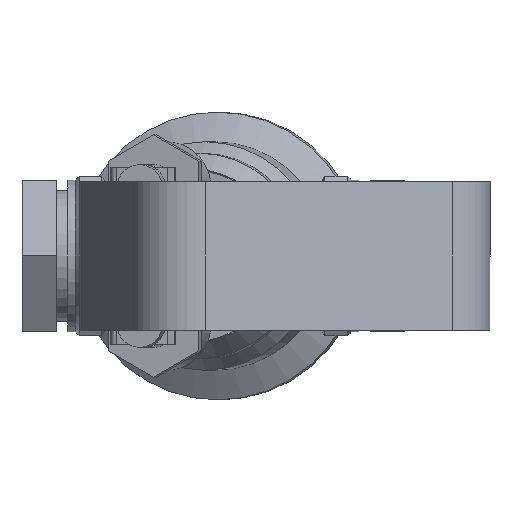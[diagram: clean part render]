
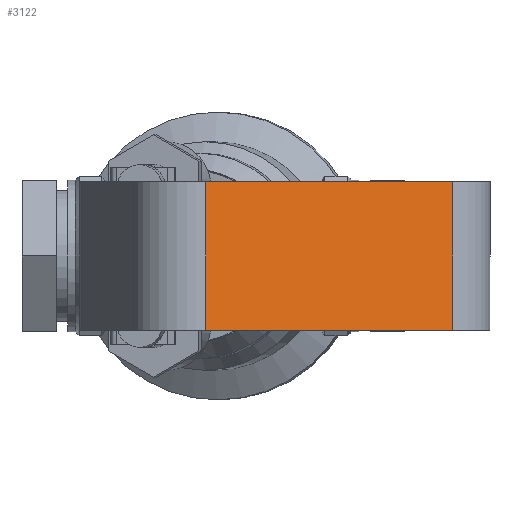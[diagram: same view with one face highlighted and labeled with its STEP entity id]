
A CAD part, front view. The second image highlights one B-rep face of the part: STEP entity #3122.
In plain terms, the highlighted planar face has unit normal (0.342, -0.94, 0).
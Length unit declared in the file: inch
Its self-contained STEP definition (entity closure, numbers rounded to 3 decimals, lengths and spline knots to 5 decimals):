
#110=PLANE('',#3452);
#248=FACE_OUTER_BOUND('',#431,.T.);
#431=EDGE_LOOP('',(#2190,#2191,#2192,#2193));
#621=LINE('',#5144,#868);
#628=LINE('',#5179,#875);
#629=LINE('',#5182,#876);
#630=LINE('',#5183,#877);
#868=VECTOR('',#3916,0.3937);
#875=VECTOR('',#3955,0.3937);
#876=VECTOR('',#3958,0.3937);
#877=VECTOR('',#3959,0.3937);
#1334=VERTEX_POINT('',#5141);
#1335=VERTEX_POINT('',#5143);
#1347=VERTEX_POINT('',#5177);
#1348=VERTEX_POINT('',#5181);
#1657=EDGE_CURVE('',#1334,#1335,#621,.T.);
#1674=EDGE_CURVE('',#1347,#1334,#628,.T.);
#1675=EDGE_CURVE('',#1348,#1347,#629,.T.);
#1676=EDGE_CURVE('',#1348,#1335,#630,.T.);
#2190=ORIENTED_EDGE('',*,*,#1674,.F.);
#2191=ORIENTED_EDGE('',*,*,#1675,.F.);
#2192=ORIENTED_EDGE('',*,*,#1676,.T.);
#2193=ORIENTED_EDGE('',*,*,#1657,.F.);
#3122=ADVANCED_FACE('',(#248),#110,.T.);
#3452=AXIS2_PLACEMENT_3D('',#5180,#3956,#3957);
#3916=DIRECTION('',(-0.94,-0.342,0.));
#3955=DIRECTION('',(0.,0.,-1.));
#3956=DIRECTION('center_axis',(0.342,-0.94,0.));
#3957=DIRECTION('ref_axis',(0.94,0.342,0.));
#3958=DIRECTION('',(0.94,0.342,0.));
#3959=DIRECTION('',(0.,0.,-1.));
#5141=CARTESIAN_POINT('',(2.09568,-4.43272,-0.65));
#5143=CARTESIAN_POINT('',(-0.06693,-5.21985,-0.65));
#5144=CARTESIAN_POINT('',(2.09568,-4.43272,-0.65));
#5177=CARTESIAN_POINT('',(2.09568,-4.43272,0.65));
#5179=CARTESIAN_POINT('',(2.09568,-4.43272,0.));
#5180=CARTESIAN_POINT('Origin',(-0.06693,-5.21985,0.));
#5181=CARTESIAN_POINT('',(-0.06693,-5.21985,0.65));
#5182=CARTESIAN_POINT('',(2.09568,-4.43272,0.65));
#5183=CARTESIAN_POINT('',(-0.06693,-5.21985,0.));
